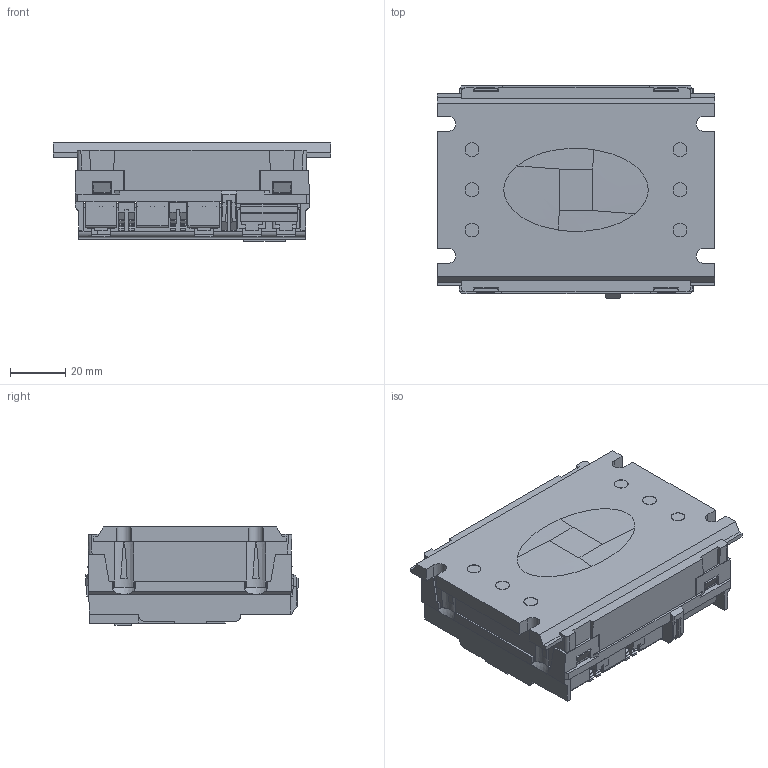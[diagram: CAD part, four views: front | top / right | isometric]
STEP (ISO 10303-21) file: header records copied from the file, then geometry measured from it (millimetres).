
FILE_DESCRIPTION(/* description */ (''),/* implementation_level */ '2;1');
FILE_NAME(/* name */ 'C:\Vault_local\Designs\Stock\20\97 Relookage triphasé 100mm\2D3D 641 A.stp',/* time_stamp */ '2017-12-14T16:20:10+01:00',/* author */ ('fbros'),/* organization */ (''),/* preprocessor_version */ 'ST-DEVELOPER v15.2',/* originating_system */ 'Autodesk Inventor 2014',/* authorisation */ '');
FILE_SCHEMA (('CONFIG_CONTROL_DESIGN'));
Products named in the file (1): 2D3D 641 A
Bounding box: 100 x 76.48 x 35.55 mm (x, y, z)
Volume: 143508.7 mm3; surface area: 55566.9 mm2
Topology: 1 solids, 42 shells, 1930 faces, 5071 edges, 3349 vertices
Faces by surface type: plane 1410, cylinder 337, cone 157, bspline 22, sphere 4
Full cylindrical faces by diameter (mm): 0.457 x6, 1 x54, 1.5 x54, 2.35 x2, 2.95 x2, 3.12 x2, 4 x12, 5 x6
Entity records: 60357 total; most frequent: CARTESIAN_POINT 11981, DIRECTION 9509, ORIENTED_EDGE 9296, EDGE_CURVE 4648, LINE 3409, VECTOR 3409, VERTEX_POINT 3184, AXIS2_PLACEMENT_3D 3050
